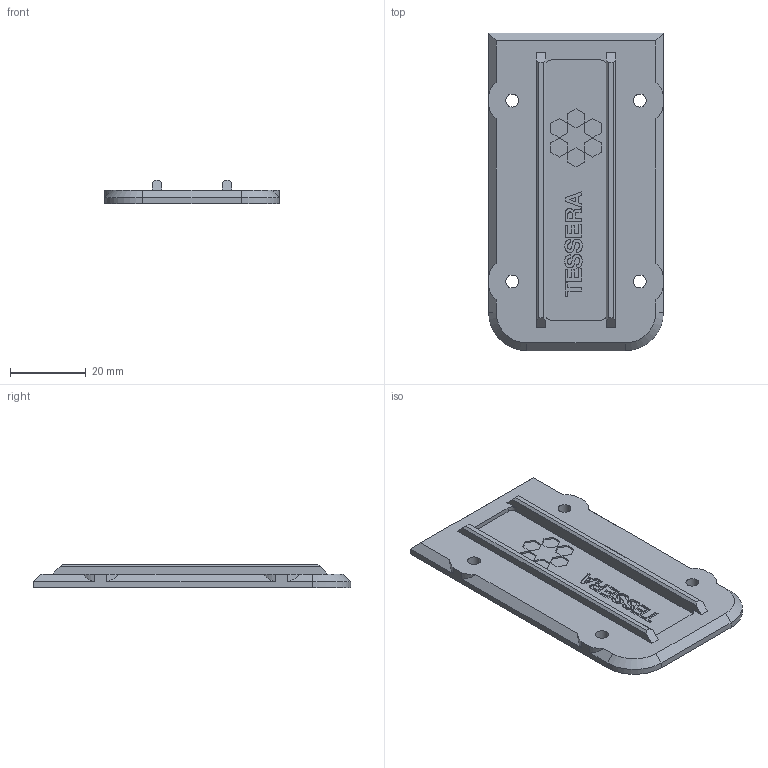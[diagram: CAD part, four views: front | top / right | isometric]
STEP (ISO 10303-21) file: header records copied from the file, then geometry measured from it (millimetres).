
FILE_DESCRIPTION(('Open CASCADE Model'),'2;1');
FILE_NAME('Open CASCADE Shape Model','2026-10-09T15:33:13',('Author'),( 'Open CASCADE'),'Open CASCADE STEP processor 7.9','Open CASCADE 7.9' ,'Unknown');
FILE_SCHEMA(('AUTOMOTIVE_DESIGN { 1 0 10303 214 1 1 1 1 }'));
Length unit declared in the file: millimetre
Products named in the file (1): Open CASCADE STEP translator 7.9 3
Bounding box: 46 x 83.5 x 6.2 mm (x, y, z)
Volume: 12546.7 mm3; surface area: 9256.2 mm2
Topology: 1 solids, 1 shells, 237 faces, 651 edges, 432 vertices
Faces by surface type: plane 143, extrusion 74, cylinder 18, cone 2
Full cylindrical faces by diameter (mm): 3.4 x4
Entity records: 17414 total; most frequent: CARTESIAN_POINT 5443, DIRECTION 1756, VECTOR 1332, ORIENTED_EDGE 1302, PCURVE 1302, DEFINITIONAL_REPRESENTATION 1302, LINE 1258, B_SPLINE_CURVE_WITH_KNOTS 695
